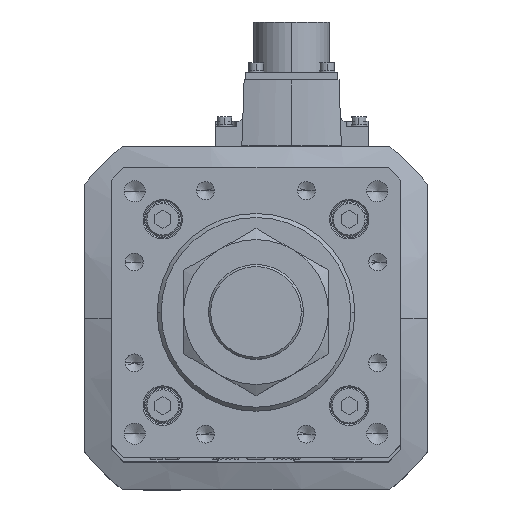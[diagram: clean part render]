
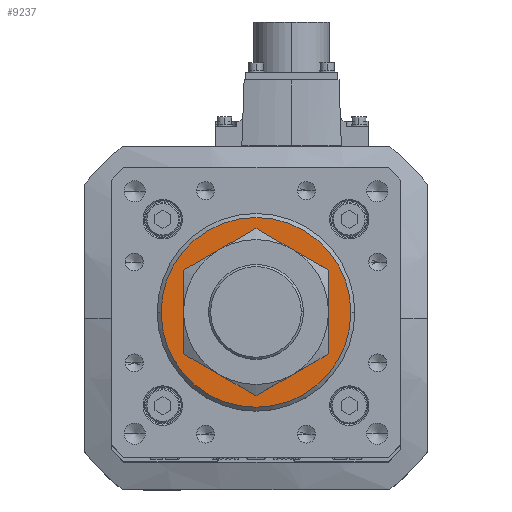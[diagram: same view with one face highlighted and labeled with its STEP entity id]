
A CAD part, top view. The second image highlights one B-rep face of the part: STEP entity #9237.
In plain terms, the highlighted planar face has unit normal (0, 0, 1).
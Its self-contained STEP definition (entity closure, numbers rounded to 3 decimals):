
#1702 = DIRECTION ( 'NONE',  ( 1., 0., 0. ) ) ;
#2238 = AXIS2_PLACEMENT_3D ( 'NONE', #24575, #12734, #21667 ) ;
#3708 = DIRECTION ( 'NONE',  ( 0., 0., 1. ) ) ;
#5100 = VERTEX_POINT ( 'NONE', #27604 ) ;
#5281 = CARTESIAN_POINT ( 'NONE',  ( -36., 0., 996. ) ) ;
#5947 = ORIENTED_EDGE ( 'NONE', *, *, #34692, .T. ) ;
#6642 = ORIENTED_EDGE ( 'NONE', *, *, #11198, .T. ) ;
#6929 = CARTESIAN_POINT ( 'NONE',  ( 0., 0., 996. ) ) ;
#7086 = DIRECTION ( 'NONE',  ( 0., 0., -1. ) ) ;
#7248 = AXIS2_PLACEMENT_3D ( 'NONE', #24909, #30542, #36379 ) ;
#7674 = AXIS2_PLACEMENT_3D ( 'NONE', #28229, #10771, #7983 ) ;
#7983 = DIRECTION ( 'NONE',  ( 1., 0., 0. ) ) ;
#9237 = ADVANCED_FACE ( 'NONE', ( #34298, #11969 ), #13060, .T. ) ;
#9378 = CARTESIAN_POINT ( 'NONE',  ( 23., 0., 996. ) ) ;
#10771 = DIRECTION ( 'NONE',  ( 0., 0., 1. ) ) ;
#11198 = EDGE_CURVE ( 'NONE', #26948, #19391, #14530, .T. ) ;
#11969 = FACE_OUTER_BOUND ( 'NONE', #32603, .T. ) ;
#12413 = CIRCLE ( 'NONE', #7248, 36. ) ;
#12734 = DIRECTION ( 'NONE',  ( 0., 0., -1. ) ) ;
#13060 = PLANE ( 'NONE',  #7674 ) ;
#14119 = ORIENTED_EDGE ( 'NONE', *, *, #15795, .T. ) ;
#14530 = CIRCLE ( 'NONE', #37233, 23. ) ;
#15795 = EDGE_CURVE ( 'NONE', #25706, #5100, #18418, .T. ) ;
#16404 = EDGE_CURVE ( 'NONE', #19391, #26948, #29306, .T. ) ;
#18418 = CIRCLE ( 'NONE', #23431, 36. ) ;
#19391 = VERTEX_POINT ( 'NONE', #9378 ) ;
#21667 = DIRECTION ( 'NONE',  ( 1., 0., 0. ) ) ;
#23431 = AXIS2_PLACEMENT_3D ( 'NONE', #6929, #3708, #27411 ) ;
#24575 = CARTESIAN_POINT ( 'NONE',  ( 0., 0., 996. ) ) ;
#24909 = CARTESIAN_POINT ( 'NONE',  ( 0., 0., 996. ) ) ;
#25706 = VERTEX_POINT ( 'NONE', #5281 ) ;
#26948 = VERTEX_POINT ( 'NONE', #28469 ) ;
#27411 = DIRECTION ( 'NONE',  ( 1., 0., 0. ) ) ;
#27604 = CARTESIAN_POINT ( 'NONE',  ( 36., 0., 996. ) ) ;
#28229 = CARTESIAN_POINT ( 'NONE',  ( 0., 0., 996. ) ) ;
#28469 = CARTESIAN_POINT ( 'NONE',  ( -23., 0., 996. ) ) ;
#29306 = CIRCLE ( 'NONE', #2238, 23. ) ;
#30542 = DIRECTION ( 'NONE',  ( 0., 0., 1. ) ) ;
#30774 = CARTESIAN_POINT ( 'NONE',  ( 0., 0., 996. ) ) ;
#32076 = EDGE_LOOP ( 'NONE', ( #36986, #6642 ) ) ;
#32603 = EDGE_LOOP ( 'NONE', ( #14119, #5947 ) ) ;
#34298 = FACE_BOUND ( 'NONE', #32076, .T. ) ;
#34692 = EDGE_CURVE ( 'NONE', #5100, #25706, #12413, .T. ) ;
#36379 = DIRECTION ( 'NONE',  ( 1., 0., 0. ) ) ;
#36986 = ORIENTED_EDGE ( 'NONE', *, *, #16404, .T. ) ;
#37233 = AXIS2_PLACEMENT_3D ( 'NONE', #30774, #7086, #1702 ) ;
